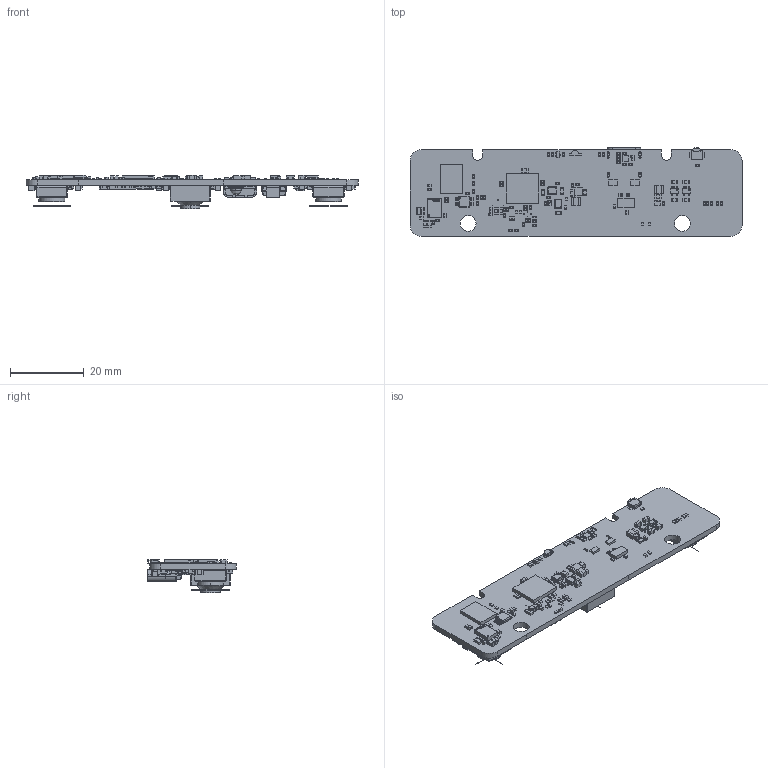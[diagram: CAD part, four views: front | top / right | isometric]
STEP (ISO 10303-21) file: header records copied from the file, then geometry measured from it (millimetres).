
FILE_DESCRIPTION(('Open CASCADE Model'),'2;1');
FILE_NAME('Open CASCADE Shape Model','2021-11-09T19:59:08',('Author'),( 'Open CASCADE'),'Open CASCADE STEP processor 6.8','Open CASCADE 6.8' ,'Unknown');
FILE_SCHEMA(('AUTOMOTIVE_DESIGN { 1 0 10303 214 1 1 1 1 }'));
Length unit declared in the file: millimetre
Products named in the file (452): PCB; Board; Open CASCADE STEP translator 6.8 1.1.1; SW1; B3U_3000P[]; R96; 6380881440; Extruded; 6380881280; R95; R93; 6380879760; 6380879600; R68; R67; R92; R91; U13; 6380876720; R88; R90; R89; C109; 6380881040; 6380880880; C108; 5091805136; Body; Open_CASCADE_STEP_translator_6.8_4.1.1; Lead; R82; R81; R80; D4; SFH_4715AS_110615_geometry; U12; IC_Hillcrest_Laboratories_Inc_BNO085_eec; body; pads; txt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
Assembly tree (1124 placements, depth 6):
  PCB
    Board
      Open CASCADE STEP translator 6.8 1.1.1
    SW1
      B3U_3000P[]
    R96
      6380881440  x2
        Extruded
      6380881280
        Extruded
    R95
      6380881440  x2
        Extruded
      6380881280
        Extruded
    R93
      6380879760  x2
        Extruded
      6380879600
        Extruded
    R68
      6380879760  x2
        Extruded
      6380879600
        Extruded
    R67
      6380879760  x2
        Extruded
      6380879600
        Extruded
    R92
      6380879760  x2
        Extruded
      6380879600
        Extruded
    R91
      6380879760  x2
        Extruded
      6380879600
        Extruded
    U13
      6380876720
        Extruded
    R88
      6380879760  x2
        Extruded
      6380879600
        Extruded
    R90
      6380881440  x2
        Extruded
      6380881280
        Extruded
    R89
      6380879760  x2
        Extruded
      6380879600
        Extruded
    C109
      6380881040
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Bounding box: 90 x 24.06 x 9.15 mm (x, y, z)
Volume: 5168.2 mm3; surface area: 9791.9 mm2
Topology: 894 solids, 894 shells, 11856 faces, 29724 edges, 19774 vertices
Faces by surface type: plane 6541, bspline 4682, cylinder 533, sphere 50, torus 28, cone 20, revolution 2
Full cylindrical faces by diameter (mm): 0.122 x1, 0.204 x8, 0.4 x1, 4.3 x2
Entity records: 178014 total; most frequent: CARTESIAN_POINT 39942, ORIENTED_EDGE 25150, DIRECTION 21276, EDGE_CURVE 12575, LINE 10404, VECTOR 10404, VERTEX_POINT 8265, AXIS2_PLACEMENT_3D 5435
